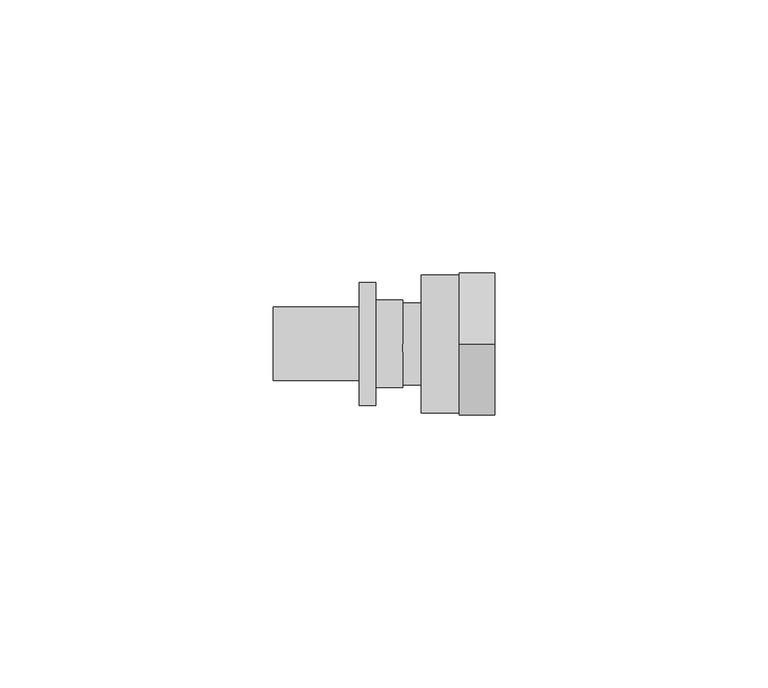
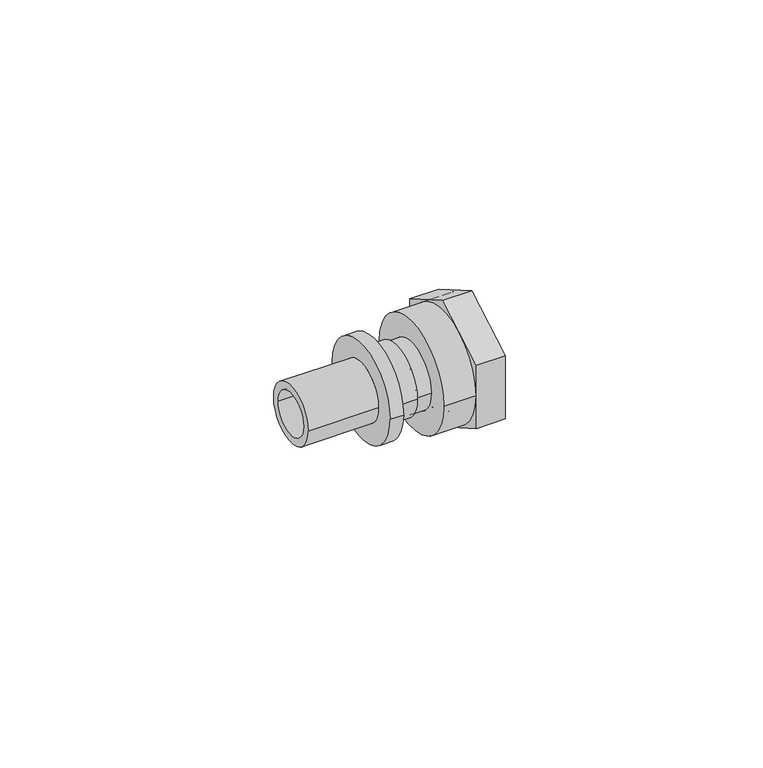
"""IFC4 building model written with IfcOpenShell, lengths in millimetres: pipe fitting geometry, REHAU_RAUTITAN_Adaptor_RX+_union nut : REHAU_RAUTITAN_Adaptor_RX+_union nut."""

from ifc_helpers import new_model, si_unit, point, frame, origin, origin_2d, place, context, project, spatial, polyline, circle_curve, trimmed, segment, composite_curve, outline, extrude, source, transform, mapped, element, save
from ifc_brep_helpers import plane_surface, cylinder_surface, revolved_surface, advanced_brep


def pipe_fitting_cf229f42(model_context):
    return source(origin(), model_context, "Body", "SolidModel", [
        extrude(outline(polyline([(0.0, -15.011107), (-13.0, -7.5055535), (-13.0, 7.5055535), (0.0, 15.011107), (13.0, 7.5055535), (13.0, -7.5055535), (0.0, -15.011107)]), holes=[composite_curve([segment(trimmed(circle_curve(origin_2d(), 12.65), [point((-12.65, 0.0))], [point((12.65, 0.0))], True, "CARTESIAN"), True, "CONTINUOUS"), segment(trimmed(circle_curve(origin_2d(), 12.65), [point((12.65, 0.0))], [point((-12.65, 0.0))], True, "CARTESIAN"), True, "CONTINUOUS")], self_intersect=False)]), frame((10.35, 0.0, 0.0), z_axis=(1.0, 0.0, 0.0), x_axis=(0.0, 1.0, 0.0)), (0.0, 0.0, 1.0), 6.5),
        advanced_brep(
        [(16.85, 12.65, 0.0), (16.85, -12.65, 0.0), (3.35, -12.65, 0.0), (3.35, 12.65, 0.0), (5.05, 9.25, 0.0), (5.05, -9.25, 0.0), (16.85, -9.25, 0.0), (16.85, 9.25, 0.0), (3.35, 7.55, 0.0), (3.35, -7.55, 0.0), (5.05, -7.55, 0.0), (5.05, 7.55, 0.0)],
        [
            (0, 1, circle_curve(frame((16.85, 0.0, 0.0), z_axis=(-1.0, 0.0, 0.0), x_axis=(0.0, -1.0, 0.0)), 12.65)),
            (1, 2),
            (2, 3, circle_curve(frame((3.35, 0.0, 0.0), z_axis=(1.0, 0.0, 0.0), x_axis=(0.0, -1.0, 0.0)), 12.65)),
            (3, 0),
            (4, 5, circle_curve(frame((5.05, 0.0, 0.0), z_axis=(-1.0, 0.0, 0.0), x_axis=(0.0, -1.0, 0.0)), 9.25)),
            (5, 6),
            (6, 7, circle_curve(frame((16.85, 0.0, 0.0), z_axis=(1.0, 0.0, 0.0), x_axis=(0.0, -1.0, 0.0)), 9.25)),
            (7, 4),
            (8, 9, circle_curve(frame((3.35, 0.0, 0.0), z_axis=(-1.0, 0.0, 0.0), x_axis=(0.0, -1.0, 0.0)), 7.55)),
            (9, 10),
            (10, 11, circle_curve(frame((5.05, 0.0, 0.0), z_axis=(1.0, 0.0, 0.0), x_axis=(0.0, -1.0, 0.0)), 7.55)),
            (11, 8),
            (1, 0, circle_curve(frame((16.85, 0.0, 0.0), z_axis=(-1.0, 0.0, 0.0), x_axis=(0.0, 1.0, 0.0)), 12.65)),
            (3, 2, circle_curve(frame((3.35, 0.0, 0.0), z_axis=(1.0, 0.0, 0.0), x_axis=(0.0, 1.0, 0.0)), 12.65)),
            (6, 7, circle_curve(frame((16.85, 0.0, 0.0), z_axis=(-1.0, 0.0, 0.0), x_axis=(0.0, 1.0, 0.0)), 9.25)),
            (5, 4, circle_curve(frame((5.05, 0.0, 0.0), z_axis=(-1.0, 0.0, 0.0), x_axis=(0.0, 1.0, 0.0)), 9.25)),
            (10, 11, circle_curve(frame((5.05, 0.0, 0.0), z_axis=(-1.0, 0.0, 0.0), x_axis=(0.0, 1.0, 0.0)), 7.55)),
            (9, 8, circle_curve(frame((3.35, 0.0, 0.0), z_axis=(-1.0, 0.0, 0.0), x_axis=(0.0, 1.0, 0.0)), 7.55)),
        ],
        [
            cylinder_surface(frame((0.0, 0.0, 0.0), z_axis=(1.0, 0.0, 0.0), x_axis=(0.0, -1.0, 0.0)), 12.65),
            revolved_surface(polyline([(16.85, -9.25, 0.0), (5.05, -9.25, 0.0)]), (0.0, 0.0, 0.0), (1.0, 0.0, 0.0)),
            revolved_surface(polyline([(5.05, -7.55, 0.0), (3.35, -7.55, 0.0)]), (0.0, 0.0, 0.0), (1.0, 0.0, 0.0)),
            cylinder_surface(frame((0.0, 0.0, 0.0), z_axis=(1.0, 0.0, 0.0), x_axis=(0.0, 1.0, 0.0)), 12.65),
            plane_surface(frame((16.85, 0.0, 0.0), z_axis=(1.0, 0.0, 0.0), x_axis=(0.0, 1.0, 0.0))),
            revolved_surface(polyline([(16.85, 9.25, 0.0), (5.05, 9.25, 0.0)]), (0.0, 0.0, 0.0), (1.0, 0.0, 0.0)),
            plane_surface(frame((5.05, 0.0, 0.0), z_axis=(1.0, 0.0, 0.0), x_axis=(0.0, 1.0, 0.0))),
            revolved_surface(polyline([(5.05, 7.55, 0.0), (3.35, 7.55, 0.0)]), (0.0, 0.0, 0.0), (1.0, 0.0, 0.0)),
            plane_surface(frame((3.35, 0.0, 0.0), z_axis=(-1.0, 0.0, 0.0), x_axis=(0.0, 1.0, 0.0))),
        ],
        [
            (0, [[1, 2, 3, 4]]),
            (1, [[5, 6, 7, 8]]),
            (2, [[9, 10, 11, 12]]),
            (3, [[13, -4, 14, -2]]),
            (4, [[-13, -1], [15, -7]]),
            (5, [[16, -8, -15, -6]]),
            (6, [[-16, -5], [17, -11]]),
            (7, [[18, -12, -17, -10]]),
            (8, [[-14, -3], [-18, -9]]),
        ],
    ),
        advanced_brep(
        [(5.05, 7.5, 0.0), (5.05, -7.5, 0.0), (0.0, -7.5, 0.0), (0.0, 7.5, 0.0), (8.05, 9.25, 0.0), (8.05, -9.25, 0.0), (5.05, -9.25, 0.0), (5.05, 9.25, 0.0), (1.4730817, 4.95, 0.0), (1.4730817, -4.95, 0.0), (8.05, -4.95, 0.0), (8.05, 4.95, 0.0), (0.0, 2.7764556, 0.0), (0.0, -2.7764556, 0.0), (1.4730817, -2.7764556, 0.0), (1.4730817, 2.7764556, 0.0)],
        [
            (0, 1, circle_curve(frame((5.05, 0.0, 0.0), z_axis=(-1.0, 0.0, 0.0), x_axis=(0.0, -1.0, 0.0)), 7.5)),
            (1, 2),
            (2, 3, circle_curve(frame((0.0, 0.0, 0.0), z_axis=(1.0, 0.0, 0.0), x_axis=(0.0, -1.0, 0.0)), 7.5)),
            (3, 0),
            (4, 5, circle_curve(frame((8.05, 0.0, 0.0), z_axis=(-1.0, 0.0, 0.0), x_axis=(0.0, -1.0, 0.0)), 9.25)),
            (5, 6),
            (6, 7, circle_curve(frame((5.05, 0.0, 0.0), z_axis=(1.0, 0.0, 0.0), x_axis=(0.0, -1.0, 0.0)), 9.25)),
            (7, 4),
            (8, 9, circle_curve(frame((1.4730817, 0.0, 0.0), z_axis=(-1.0, 0.0, 0.0), x_axis=(0.0, -1.0, 0.0)), 4.95)),
            (9, 10),
            (10, 11, circle_curve(frame((8.05, 0.0, 0.0), z_axis=(1.0, 0.0, 0.0), x_axis=(0.0, -1.0, 0.0)), 4.95)),
            (11, 8),
            (2, 3, circle_curve(frame((0.0, 0.0, 0.0), z_axis=(-1.0, 0.0, 0.0), x_axis=(0.0, 1.0, 0.0)), 7.5)),
            (12, 13, circle_curve(frame((0.0, 0.0, 0.0), z_axis=(1.0, 0.0, 0.0), x_axis=(0.0, 1.0, 0.0)), 2.7764556)),
            (13, 12, circle_curve(frame((0.0, 0.0, 0.0), z_axis=(1.0, 0.0, 0.0), x_axis=(0.0, -1.0, 0.0)), 2.7764556)),
            (1, 0, circle_curve(frame((5.05, 0.0, 0.0), z_axis=(-1.0, 0.0, 0.0), x_axis=(0.0, 1.0, 0.0)), 7.5)),
            (6, 7, circle_curve(frame((5.05, 0.0, 0.0), z_axis=(-1.0, 0.0, 0.0), x_axis=(0.0, 1.0, 0.0)), 9.25)),
            (5, 4, circle_curve(frame((8.05, 0.0, 0.0), z_axis=(-1.0, 0.0, 0.0), x_axis=(0.0, 1.0, 0.0)), 9.25)),
            (10, 11, circle_curve(frame((8.05, 0.0, 0.0), z_axis=(-1.0, 0.0, 0.0), x_axis=(0.0, 1.0, 0.0)), 4.95)),
            (9, 8, circle_curve(frame((1.4730817, 0.0, 0.0), z_axis=(-1.0, 0.0, 0.0), x_axis=(0.0, 1.0, 0.0)), 4.95)),
            (13, 14),
            (14, 15, circle_curve(frame((1.4730817, 0.0, 0.0), z_axis=(1.0, 0.0, 0.0), x_axis=(0.0, -1.0, 0.0)), 2.7764556)),
            (15, 12),
            (14, 15, circle_curve(frame((1.4730817, 0.0, 0.0), z_axis=(-1.0, 0.0, 0.0), x_axis=(0.0, 1.0, 0.0)), 2.7764556)),
        ],
        [
            cylinder_surface(frame((0.0, 0.0, 0.0), z_axis=(1.0, 0.0, 0.0), x_axis=(0.0, -1.0, 0.0)), 7.5),
            cylinder_surface(frame((0.0, 0.0, 0.0), z_axis=(1.0, 0.0, 0.0), x_axis=(0.0, -1.0, 0.0)), 9.25),
            revolved_surface(polyline([(8.05, -4.95, 0.0), (1.4730817, -4.95, 0.0)]), (0.0, 0.0, 0.0), (1.0, 0.0, 0.0)),
            plane_surface(frame((0.0, 0.0, 0.0), z_axis=(-1.0, 0.0, 0.0), x_axis=(0.0, 1.0, 0.0))),
            cylinder_surface(frame((0.0, 0.0, 0.0), z_axis=(1.0, 0.0, 0.0), x_axis=(0.0, 1.0, 0.0)), 7.5),
            plane_surface(frame((5.05, 0.0, 0.0), z_axis=(-1.0, 0.0, 0.0), x_axis=(0.0, 1.0, 0.0))),
            cylinder_surface(frame((0.0, 0.0, 0.0), z_axis=(1.0, 0.0, 0.0), x_axis=(0.0, 1.0, 0.0)), 9.25),
            plane_surface(frame((8.05, 0.0, 0.0), z_axis=(1.0, 0.0, 0.0), x_axis=(0.0, 1.0, 0.0))),
            revolved_surface(polyline([(8.05, 4.95, 0.0), (1.4730817, 4.95, 0.0)]), (0.0, 0.0, 0.0), (1.0, 0.0, 0.0)),
            revolved_surface(polyline([(1.4730817, -2.7764556, 0.0), (0.0, -2.7764556, 0.0)]), (0.0, 0.0, 0.0), (1.0, 0.0, 0.0)),
            plane_surface(frame((1.4730817, 0.0, 0.0), z_axis=(1.0, 0.0, 0.0), x_axis=(0.0, 1.0, 0.0))),
            revolved_surface(polyline([(1.4730817, 2.7764556, 0.0), (0.0, 2.7764556, 0.0)]), (0.0, 0.0, 0.0), (1.0, 0.0, 0.0)),
        ],
        [
            (0, [[1, 2, 3, 4]]),
            (1, [[5, 6, 7, 8]]),
            (2, [[9, 10, 11, 12]]),
            (3, [[13, -3], [14, 15]]),
            (4, [[16, -4, -13, -2]]),
            (5, [[17, -7], [-16, -1]]),
            (6, [[18, -8, -17, -6]]),
            (7, [[-18, -5], [19, -11]]),
            (8, [[20, -12, -19, -10]]),
            (9, [[-15, 21, 22, 23]]),
            (10, [[-20, -9], [24, -22]]),
            (11, [[-14, -23, -24, -21]]),
        ],
    ),
        advanced_brep(
        [(0.0, 8.0, 0.0), (0.0, -8.0, 0.0), (-5.0, -8.0, 0.0), (-5.0, 8.0, 0.0), (-23.75, 4.95, 0.0), (-23.75, -4.95, 0.0), (0.0, -4.95, 0.0), (0.0, 4.95, 0.0), (-8.0, 6.725, 0.0), (-8.0, -6.725, 0.0), (-23.75, -6.725, 0.0), (-23.75, 6.725, 0.0), (-5.0, 11.25, 0.0), (-5.0, -11.25, 0.0), (-8.0, -11.25, 0.0), (-8.0, 11.25, 0.0)],
        [
            (0, 1, circle_curve(frame((0.0, 0.0, 0.0), z_axis=(-1.0, 0.0, 0.0), x_axis=(0.0, -1.0, 0.0)), 8.0)),
            (1, 2),
            (2, 3, circle_curve(frame((-5.0, 0.0, 0.0), z_axis=(1.0, 0.0, 0.0), x_axis=(0.0, -1.0, 0.0)), 8.0)),
            (3, 0),
            (4, 5, circle_curve(frame((-23.75, 0.0, 0.0), z_axis=(-1.0, 0.0, 0.0), x_axis=(0.0, -1.0, 0.0)), 4.95)),
            (5, 6),
            (6, 7, circle_curve(frame((0.0, 0.0, 0.0), z_axis=(1.0, 0.0, 0.0), x_axis=(0.0, -1.0, 0.0)), 4.95)),
            (7, 4),
            (8, 9, circle_curve(frame((-8.0, 0.0, 0.0), z_axis=(-1.0, 0.0, 0.0), x_axis=(0.0, -1.0, 0.0)), 6.725)),
            (9, 10),
            (10, 11, circle_curve(frame((-23.75, 0.0, 0.0), z_axis=(1.0, 0.0, 0.0), x_axis=(0.0, -1.0, 0.0)), 6.725)),
            (11, 8),
            (12, 13, circle_curve(frame((-5.0, 0.0, 0.0), z_axis=(-1.0, 0.0, 0.0), x_axis=(0.0, -1.0, 0.0)), 11.25)),
            (13, 14),
            (14, 15, circle_curve(frame((-8.0, 0.0, 0.0), z_axis=(1.0, 0.0, 0.0), x_axis=(0.0, -1.0, 0.0)), 11.25)),
            (15, 12),
            (1, 0, circle_curve(frame((0.0, 0.0, 0.0), z_axis=(-1.0, 0.0, 0.0), x_axis=(0.0, 1.0, 0.0)), 8.0)),
            (3, 2, circle_curve(frame((-5.0, 0.0, 0.0), z_axis=(1.0, 0.0, 0.0), x_axis=(0.0, 1.0, 0.0)), 8.0)),
            (6, 7, circle_curve(frame((0.0, 0.0, 0.0), z_axis=(-1.0, 0.0, 0.0), x_axis=(0.0, 1.0, 0.0)), 4.95)),
            (5, 4, circle_curve(frame((-23.75, 0.0, 0.0), z_axis=(-1.0, 0.0, 0.0), x_axis=(0.0, 1.0, 0.0)), 4.95)),
            (10, 11, circle_curve(frame((-23.75, 0.0, 0.0), z_axis=(-1.0, 0.0, 0.0), x_axis=(0.0, 1.0, 0.0)), 6.725)),
            (9, 8, circle_curve(frame((-8.0, 0.0, 0.0), z_axis=(-1.0, 0.0, 0.0), x_axis=(0.0, 1.0, 0.0)), 6.725)),
            (14, 15, circle_curve(frame((-8.0, 0.0, 0.0), z_axis=(-1.0, 0.0, 0.0), x_axis=(0.0, 1.0, 0.0)), 11.25)),
            (13, 12, circle_curve(frame((-5.0, 0.0, 0.0), z_axis=(-1.0, 0.0, 0.0), x_axis=(0.0, 1.0, 0.0)), 11.25)),
        ],
        [
            cylinder_surface(frame((0.0, 0.0, 0.0), z_axis=(1.0, 0.0, 0.0), x_axis=(0.0, -1.0, 0.0)), 8.0),
            revolved_surface(polyline([(0.0, -4.95, 0.0), (-23.75, -4.95, 0.0)]), (0.0, 0.0, 0.0), (1.0, 0.0, 0.0)),
            cylinder_surface(frame((0.0, 0.0, 0.0), z_axis=(1.0, 0.0, 0.0), x_axis=(0.0, -1.0, 0.0)), 6.725),
            cylinder_surface(frame((0.0, 0.0, 0.0), z_axis=(1.0, 0.0, 0.0), x_axis=(0.0, -1.0, 0.0)), 11.25),
            cylinder_surface(frame((0.0, 0.0, 0.0), z_axis=(1.0, 0.0, 0.0), x_axis=(0.0, 1.0, 0.0)), 8.0),
            plane_surface(frame((0.0, 0.0, 0.0), z_axis=(1.0, 0.0, 0.0), x_axis=(0.0, 1.0, 0.0))),
            revolved_surface(polyline([(0.0, 4.95, 0.0), (-23.75, 4.95, 0.0)]), (0.0, 0.0, 0.0), (1.0, 0.0, 0.0)),
            plane_surface(frame((-23.75, 0.0, 0.0), z_axis=(-1.0, 0.0, 0.0), x_axis=(0.0, 1.0, 0.0))),
            cylinder_surface(frame((0.0, 0.0, 0.0), z_axis=(1.0, 0.0, 0.0), x_axis=(0.0, 1.0, 0.0)), 6.725),
            plane_surface(frame((-8.0, 0.0, 0.0), z_axis=(-1.0, 0.0, 0.0), x_axis=(0.0, 1.0, 0.0))),
            cylinder_surface(frame((0.0, 0.0, 0.0), z_axis=(1.0, 0.0, 0.0), x_axis=(0.0, 1.0, 0.0)), 11.25),
            plane_surface(frame((-5.0, 0.0, 0.0), z_axis=(1.0, 0.0, 0.0), x_axis=(0.0, 1.0, 0.0))),
        ],
        [
            (0, [[1, 2, 3, 4]]),
            (1, [[5, 6, 7, 8]]),
            (2, [[9, 10, 11, 12]]),
            (3, [[13, 14, 15, 16]]),
            (4, [[17, -4, 18, -2]]),
            (5, [[-17, -1], [19, -7]]),
            (6, [[20, -8, -19, -6]]),
            (7, [[21, -11], [-20, -5]]),
            (8, [[22, -12, -21, -10]]),
            (9, [[23, -15], [-22, -9]]),
            (10, [[24, -16, -23, -14]]),
            (11, [[-24, -13], [-18, -3]]),
        ],
    ),
    ])


if __name__ == "__main__":
    model = new_model("IFC4")
    model_context = context("Model", 3, world=origin())
    ifc_project = project(units=[si_unit("LENGTHUNIT", "METRE", prefix="MILLI")], contexts=[model_context])
    site = spatial("IfcSite", under=ifc_project)
    building = spatial("IfcBuilding", under=site)
    placement = place(None, origin())
    pipe_fitting_shape = pipe_fitting_cf229f42(model_context)
    element("IfcPipeFitting", 1, ObjectType="REHAU_RAUTITAN_Adaptor_RX+_union nut : REHAU_RAUTITAN_Adaptor_RX+_union nut", at=placement, inside=building, context=model_context, shape_type="MappedRepresentation", body=[
        mapped(pipe_fitting_shape, transform((0.0, 0.0, 0.0), x_axis=(1.0, 0.0, 0.0), y_axis=(0.0, 1.0, 0.0), z_axis=(0.0, 0.0, 1.0))),
    ])
    save(model, "model.ifc")
